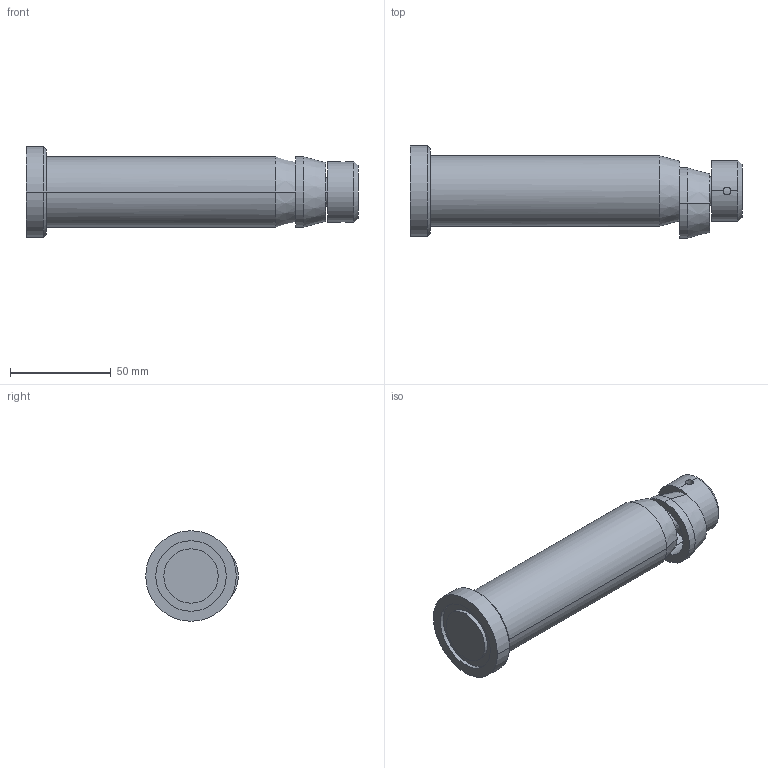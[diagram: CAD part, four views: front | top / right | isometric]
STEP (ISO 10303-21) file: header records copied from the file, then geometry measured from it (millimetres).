
FILE_DESCRIPTION(('CATIA V5 STEP Exchange'),'2;1');
FILE_NAME('C:\Users\Raffaele\Desktop\3D X SITO CF\PERNI -STAFFE SOLLEVAMENTO\395X\GSB_OILLESS_C10303035125\STEP-2.03\395X-035-125.stp','2019-07-03T13:17:34+00:00',('none'),('none'),'CATIA Version 5 Release 20 GA (IN-10)','CATIA V5 STEP AP203','none');
FILE_SCHEMA(('CONFIG_CONTROL_DESIGN'));
Length unit declared in the file: millimetre
Products named in the file (1): 395X-035-125
Assembly tree (3 placements, depth 2):
  395X-035-125
    #58
    #723
    #1088
Bounding box: 165 x 46 x 45 mm (x, y, z)
Volume: 150329.7 mm3; surface area: 26100.9 mm2
Topology: 3 solids, 3 shells, 42 faces, 122 edges, 86 vertices
Faces by surface type: cylinder 22, plane 10, cone 10
Entity records: 1823 total; most frequent: CARTESIAN_POINT 619, ORIENTED_EDGE 244, DIRECTION 198, EDGE_CURVE 122, AXIS2_PLACEMENT_3D 114, VERTEX_POINT 86, CIRCLE 66, EDGE_LOOP 50
